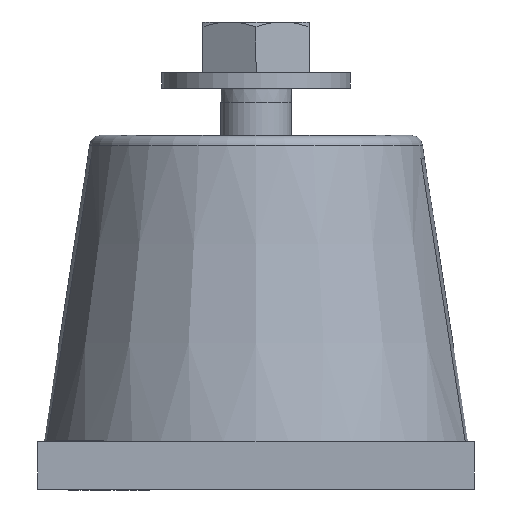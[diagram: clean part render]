
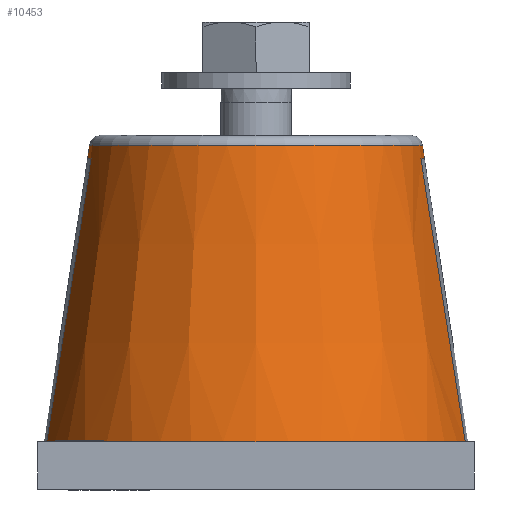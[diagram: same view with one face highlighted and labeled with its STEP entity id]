
A CAD part, front view. The second image highlights one B-rep face of the part: STEP entity #10453.
In plain terms, the highlighted conical face has half-angle 8.746 degrees and reference radius 25.503 mm.
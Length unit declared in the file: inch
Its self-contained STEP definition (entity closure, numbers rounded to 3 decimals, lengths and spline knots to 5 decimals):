
#124=CARTESIAN_POINT('',(-0.1875,0.87435,1.75));
#125=VERTEX_POINT('',#124);
#126=CARTESIAN_POINT('',(-0.1875,1.10926,0.25));
#127=VERTEX_POINT('',#126);
#128=CARTESIAN_POINT('',(-0.1875,0.87435,1.75));
#129=CARTESIAN_POINT('',(-0.1875,0.97839,1.08882));
#130=CARTESIAN_POINT('',(-0.1875,1.10926,0.25));
#138=(BOUNDED_CURVE()B_SPLINE_CURVE(2,(#128,#129,#130),.UNSPECIFIED.,.F.,.U.)B_SPLINE_CURVE_WITH_KNOTS((3,3),(0.0,3.85644),.UNSPECIFIED.)CURVE()GEOMETRIC_REPRESENTATION_ITEM()RATIONAL_B_SPLINE_CURVE((1.0,1.007,1.0))REPRESENTATION_ITEM(''));
#139=EDGE_CURVE('',#125,#127,#138,.T.);
#141=CARTESIAN_POINT('',(0.1875,0.87435,1.75));
#142=VERTEX_POINT('',#141);
#143=CARTESIAN_POINT('',(0.,0.,1.75));
#144=DIRECTION('',(0.0,0.0,1.0));
#145=DIRECTION('',(1.0,0.0,0.0));
#146=AXIS2_PLACEMENT_3D('',#143,#144,#145);
#147=CIRCLE('',#146,0.89423);
#148=EDGE_CURVE('',#142,#125,#147,.T.);
#150=CARTESIAN_POINT('',(0.1875,1.10926,0.25));
#151=VERTEX_POINT('',#150);
#152=CARTESIAN_POINT('',(0.1875,1.10926,0.25));
#153=CARTESIAN_POINT('',(0.1875,0.97839,1.08882));
#154=CARTESIAN_POINT('',(0.1875,0.87435,1.75));
#162=(BOUNDED_CURVE()B_SPLINE_CURVE(2,(#152,#153,#154),.UNSPECIFIED.,.F.,.U.)B_SPLINE_CURVE_WITH_KNOTS((3,3),(0.0,3.85644),.UNSPECIFIED.)CURVE()GEOMETRIC_REPRESENTATION_ITEM()RATIONAL_B_SPLINE_CURVE((1.0,1.007,1.0))REPRESENTATION_ITEM(''));
#163=EDGE_CURVE('',#151,#142,#162,.T.);
#180=CARTESIAN_POINT('',(0.1875,-0.87435,1.75));
#181=VERTEX_POINT('',#180);
#182=CARTESIAN_POINT('',(0.1875,-1.10926,0.25));
#183=VERTEX_POINT('',#182);
#184=CARTESIAN_POINT('',(0.1875,-0.87435,1.75));
#185=CARTESIAN_POINT('',(0.1875,-0.97839,1.08882));
#186=CARTESIAN_POINT('',(0.1875,-1.10926,0.25));
#194=(BOUNDED_CURVE()B_SPLINE_CURVE(2,(#184,#185,#186),.UNSPECIFIED.,.F.,.U.)B_SPLINE_CURVE_WITH_KNOTS((3,3),(0.0,3.85644),.UNSPECIFIED.)CURVE()GEOMETRIC_REPRESENTATION_ITEM()RATIONAL_B_SPLINE_CURVE((1.0,1.007,1.0))REPRESENTATION_ITEM(''));
#195=EDGE_CURVE('',#181,#183,#194,.T.);
#197=CARTESIAN_POINT('',(-0.1875,-0.87435,1.75));
#198=VERTEX_POINT('',#197);
#199=CARTESIAN_POINT('',(0.,0.,1.75));
#200=DIRECTION('',(0.0,0.0,1.0));
#201=DIRECTION('',(1.0,0.0,0.0));
#202=AXIS2_PLACEMENT_3D('',#199,#200,#201);
#203=CIRCLE('',#202,0.89423);
#204=EDGE_CURVE('',#198,#181,#203,.T.);
#206=CARTESIAN_POINT('',(-0.1875,-1.10926,0.25));
#207=VERTEX_POINT('',#206);
#208=CARTESIAN_POINT('',(-0.1875,-1.10926,0.25));
#209=CARTESIAN_POINT('',(-0.1875,-0.97839,1.08882));
#210=CARTESIAN_POINT('',(-0.1875,-0.87435,1.75));
#218=(BOUNDED_CURVE()B_SPLINE_CURVE(2,(#208,#209,#210),.UNSPECIFIED.,.F.,.U.)B_SPLINE_CURVE_WITH_KNOTS((3,3),(0.0,3.85644),.UNSPECIFIED.)CURVE()GEOMETRIC_REPRESENTATION_ITEM()RATIONAL_B_SPLINE_CURVE((1.0,1.007,1.0))REPRESENTATION_ITEM(''));
#219=EDGE_CURVE('',#207,#198,#218,.T.);
#4308=CARTESIAN_POINT('',(1.125,0.,0.25));
#4309=VERTEX_POINT('',#4308);
#4310=CARTESIAN_POINT('',(0.,0.,0.25));
#4311=DIRECTION('',(0.0,0.0,-1.0));
#4312=DIRECTION('',(1.0,0.0,0.0));
#4313=AXIS2_PLACEMENT_3D('',#4310,#4311,#4312);
#4314=CIRCLE('',#4313,1.125);
#4315=EDGE_CURVE('',#4309,#183,#4314,.T.);
#4318=CARTESIAN_POINT('',(0.,0.,0.25));
#4319=DIRECTION('',(0.0,0.0,-1.0));
#4320=DIRECTION('',(1.0,0.0,0.0));
#4321=AXIS2_PLACEMENT_3D('',#4318,#4319,#4320);
#4322=CIRCLE('',#4321,1.125);
#4323=EDGE_CURVE('',#207,#127,#4322,.T.);
#4326=CARTESIAN_POINT('',(0.,0.,0.25));
#4327=DIRECTION('',(0.0,0.0,-1.0));
#4328=DIRECTION('',(1.0,0.0,0.0));
#4329=AXIS2_PLACEMENT_3D('',#4326,#4327,#4328);
#4330=CIRCLE('',#4329,1.125);
#4331=EDGE_CURVE('',#151,#4309,#4330,.T.);
#10419=CARTESIAN_POINT('',(0.88315,0.,1.822));
#10420=VERTEX_POINT('',#10419);
#10421=CARTESIAN_POINT('',(0.,0.,1.822));
#10422=DIRECTION('',(0.0,0.0,-1.0));
#10423=DIRECTION('',(1.0,0.0,0.0));
#10424=AXIS2_PLACEMENT_3D('',#10421,#10422,#10423);
#10425=CIRCLE('',#10424,0.88315);
#10426=EDGE_CURVE('',#10420,#10420,#10425,.T.);
#10434=CARTESIAN_POINT('',(0.,0.,1.036));
#10435=DIRECTION('',(0.0,0.0,-1.0));
#10436=DIRECTION('',(1.0,0.0,0.0));
#10437=AXIS2_PLACEMENT_3D('',#10434,#10435,#10436);
#10438=CONICAL_SURFACE('',#10437,1.00408,8.746);
#10439=ORIENTED_EDGE('',*,*,#195,.T.);
#10440=ORIENTED_EDGE('',*,*,#4315,.F.);
#10441=ORIENTED_EDGE('',*,*,#4331,.F.);
#10442=ORIENTED_EDGE('',*,*,#163,.T.);
#10443=ORIENTED_EDGE('',*,*,#148,.T.);
#10444=ORIENTED_EDGE('',*,*,#139,.T.);
#10445=ORIENTED_EDGE('',*,*,#4323,.F.);
#10446=ORIENTED_EDGE('',*,*,#219,.T.);
#10447=ORIENTED_EDGE('',*,*,#204,.T.);
#10448=EDGE_LOOP('',(#10439,#10440,#10441,#10442,#10443,#10444,#10445,#10446,#10447));
#10449=FACE_OUTER_BOUND('',#10448,.T.);
#10450=ORIENTED_EDGE('',*,*,#10426,.T.);
#10451=EDGE_LOOP('',(#10450));
#10452=FACE_BOUND('',#10451,.T.);
#10453=ADVANCED_FACE('',(#10449,#10452),#10438,.T.);
